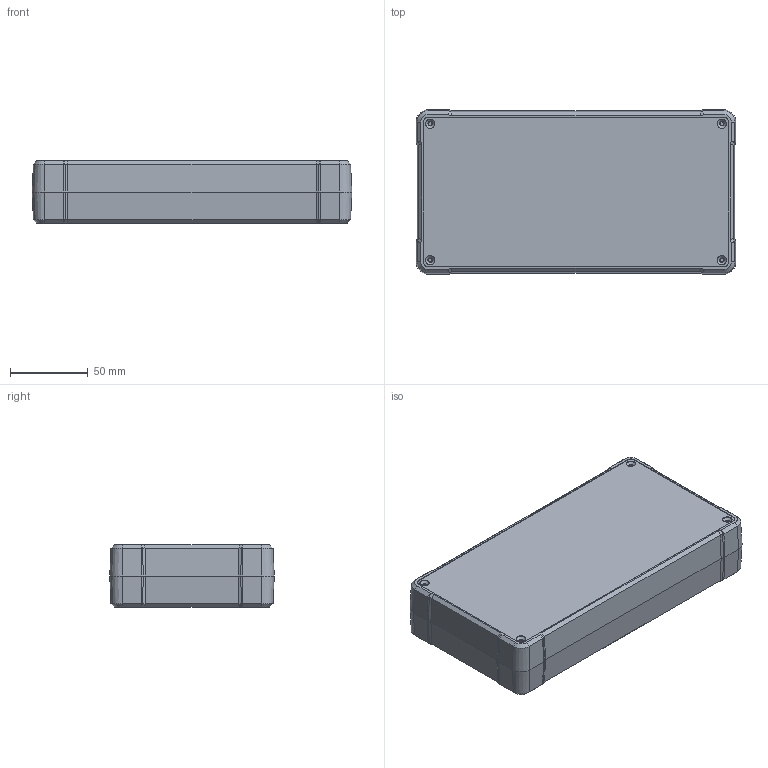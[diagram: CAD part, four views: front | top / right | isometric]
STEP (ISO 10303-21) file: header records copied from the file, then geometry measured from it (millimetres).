
FILE_DESCRIPTION(/* description */ ('STEP AP214','CAx-IF Rec.Pracs.---Representation and Presentation of Product Manufacturing Information (PMI)---4.0---2014-10-13'),/* implementation_level */ '2;1');
FILE_NAME(/* name */ 'E:\Eng\Customer Service\Drawings\Working on Ritec\Step\RL\RL6065.stp',/* time_stamp */ '2018-04-02T07:27:06-04:00',/* author */ ('mbeerman'),/* organization */ (''),/* preprocessor_version */ 'ST-DEVELOPER v17',/* originating_system */ 'Autodesk Inventor 2018',/* authorisation */ '');
FILE_SCHEMA (('AP242_MANAGED_MODEL_BASED_3D_ENGINEERING_MIM_LF { 1 0 10303 442 1 1 4 }'));
Length unit declared in the file: millimetre
Products named in the file (4): RL6065 w1 151103; 6065B; 6065T; (screw M3-0.5X 20mm FH)
Assembly tree (6 placements, depth 2):
  RL6065 w1 151103
    6065B
    6065T
    (screw M3-0.5X 20mm FH)  x4
Bounding box: 206 x 106 x 40 mm (x, y, z)
Volume: 163033 mm3; surface area: 136706.8 mm2
Topology: 6 solids, 6 shells, 455 faces, 1202 edges, 812 vertices
Faces by surface type: plane 279, cone 92, cylinder 84
Full cylindrical faces by diameter (mm): 2.2 x16, 2.4 x4, 2.88 x4, 3.2 x12, 5 x16, 5.71 x4, 6 x12
Entity records: 12220 total; most frequent: DIRECTION 2207, CARTESIAN_POINT 2110, ORIENTED_EDGE 1978, EDGE_CURVE 989, AXIS2_PLACEMENT_3D 813, VERTEX_POINT 668, LINE 597, VECTOR 597
